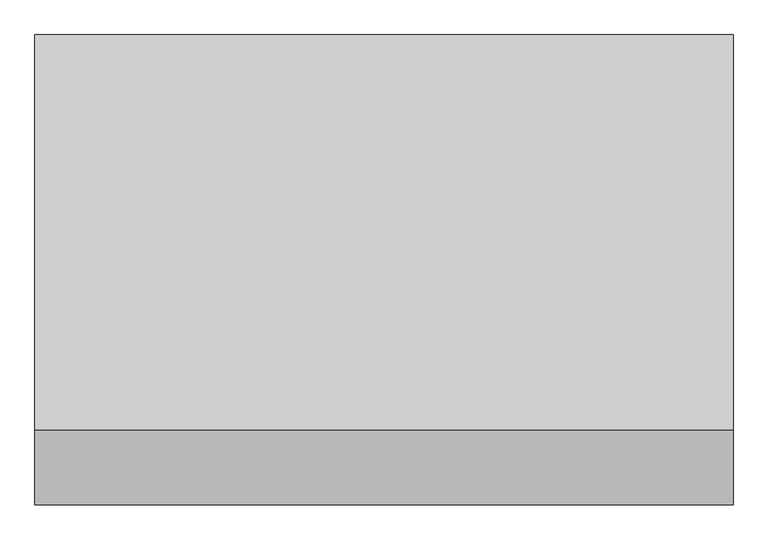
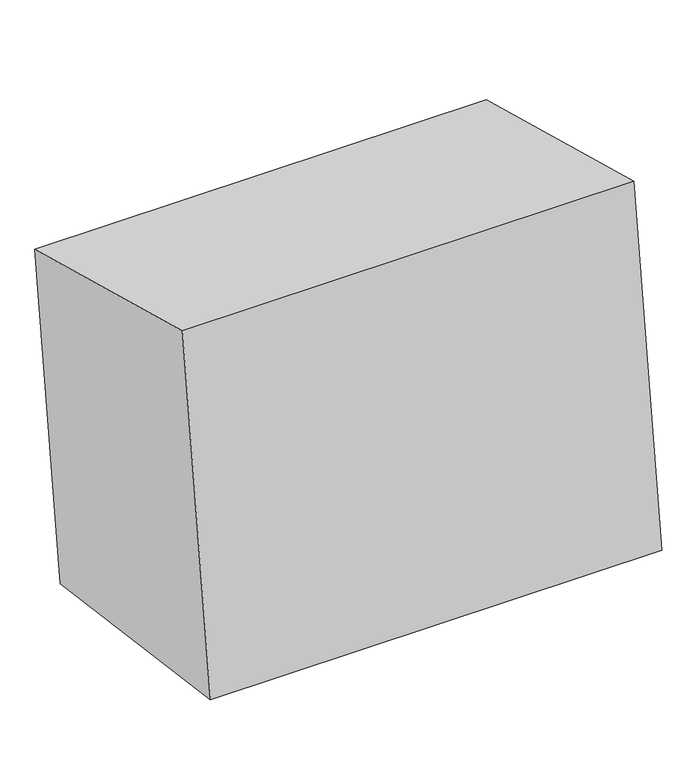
"""IFC4 building model written with IfcOpenShell, lengths in millimetres: proxy geometry, Excavation FamilySP : Excavation FamilySP."""

from ifc_helpers import new_model, si_unit, frame, origin, place, context, project, spatial, polyline, outline, extrude, source, transform, mapped, element, save


def generic_models_7f9f14d9(model_context):
    return source(origin(), model_context, "Body", "SweptSolid", [
        extrude(outline(polyline([(297.1975401, 2207.4614339), (0.0, 0.0), (-1755.5764216, 236.3588264), (-1427.6552062, 2672.0231198), (297.1975401, 2207.4614339)])), frame((-1524.0, 0.0, 0.0), z_axis=(1.0, 0.0, 0.0), x_axis=(0.0, 1.0, 0.0)), (0.0, 0.0, 1.0), 3048.0),
    ])


if __name__ == "__main__":
    model = new_model("IFC4")
    model_context = context("Model", 3, world=origin())
    ifc_project = project(units=[si_unit("LENGTHUNIT", "METRE", prefix="MILLI")], contexts=[model_context])
    site = spatial("IfcSite", under=ifc_project)
    building = spatial("IfcBuilding", under=site)
    placement = place(None, origin())
    generic_models_shape = generic_models_7f9f14d9(model_context)
    element("IfcBuildingElementProxy", 1, Name="Excavation FamilySP : Excavation FamilySP", ObjectType="Excavation FamilySP : Excavation FamilySP", at=placement, inside=building, context=model_context, shape_type="MappedRepresentation", body=[
        mapped(generic_models_shape, transform((0.0, 0.0, 0.0), x_axis=(1.0, 0.0, 0.0), y_axis=(0.0, 1.0, 0.0), z_axis=(0.0, 0.0, 1.0))),
    ])
    save(model, "model.ifc")
